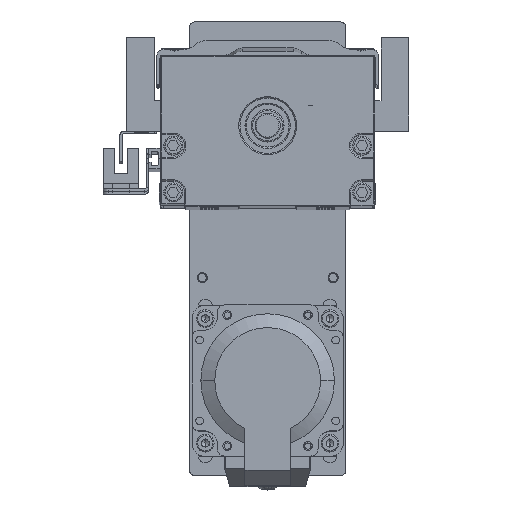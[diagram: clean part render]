
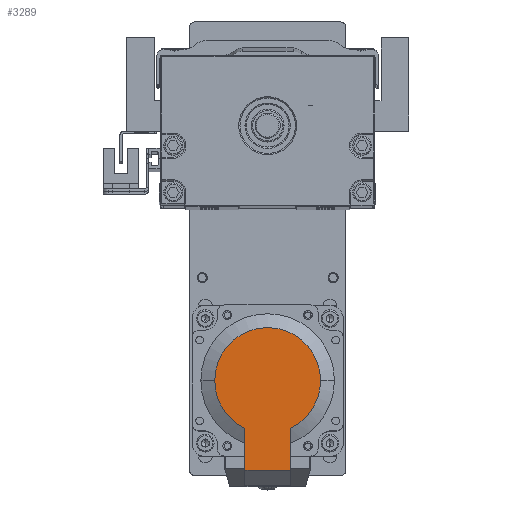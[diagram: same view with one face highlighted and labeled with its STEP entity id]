
A CAD part, top view. The second image highlights one B-rep face of the part: STEP entity #3289.
In plain terms, the highlighted planar face has unit normal (0, 0, 1).
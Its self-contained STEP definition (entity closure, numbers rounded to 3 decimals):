
#519 = CARTESIAN_POINT ( 'NONE',  ( 121.36, 3.277, 500.168 ) ) ;
#3289 = ADVANCED_FACE ( 'NONE', ( #85136 ), #66533, .T. ) ;
#4581 = VECTOR ( 'NONE', #147661, 1000. ) ;
#4731 = VERTEX_POINT ( 'NONE', #29173 ) ;
#5312 = VECTOR ( 'NONE', #47982, 1000. ) ;
#6161 = EDGE_CURVE ( 'NONE', #11733, #80339, #108798, .T. ) ;
#6538 = CARTESIAN_POINT ( 'NONE',  ( 85.777, 12.277, 500.168 ) ) ;
#9031 = CIRCLE ( 'NONE', #125349, 21. ) ;
#11733 = VERTEX_POINT ( 'NONE', #22188 ) ;
#12372 = CIRCLE ( 'NONE', #53614, 21. ) ;
#18062 = DIRECTION ( 'NONE',  ( 0., 0., 1. ) ) ;
#18896 = EDGE_CURVE ( 'NONE', #4731, #30076, #99244, .T. ) ;
#19346 = EDGE_CURVE ( 'NONE', #69452, #30076, #97355, .T. ) ;
#21251 = EDGE_CURVE ( 'NONE', #80339, #69452, #12372, .T. ) ;
#22188 = CARTESIAN_POINT ( 'NONE',  ( 85.777, 33.277, 500.168 ) ) ;
#23475 = DIRECTION ( 'NONE',  ( 0., 0., 1. ) ) ;
#27793 = EDGE_LOOP ( 'NONE', ( #119690, #79300, #127166, #105502, #122929, #79105 ) ) ;
#29173 = CARTESIAN_POINT ( 'NONE',  ( 121.36, 21.277, 500.168 ) ) ;
#30076 = VERTEX_POINT ( 'NONE', #113311 ) ;
#37528 = CARTESIAN_POINT ( 'NONE',  ( 121.36, 21.277, 500.168 ) ) ;
#47982 = DIRECTION ( 'NONE',  ( 1., 0., 0. ) ) ;
#53144 = VECTOR ( 'NONE', #81874, 1000. ) ;
#53614 = AXIS2_PLACEMENT_3D ( 'NONE', #6538, #18062, #110183 ) ;
#54003 = EDGE_CURVE ( 'NONE', #78547, #11733, #9031, .T. ) ;
#57079 = CARTESIAN_POINT ( 'NONE',  ( 85.777, 33.277, 500.168 ) ) ;
#66533 = PLANE ( 'NONE',  #91750 ) ;
#69440 = CARTESIAN_POINT ( 'NONE',  ( 121.36, 21.277, 500.168 ) ) ;
#69452 = VERTEX_POINT ( 'NONE', #112891 ) ;
#69793 = CARTESIAN_POINT ( 'NONE',  ( 85.777, 12.277, 500.168 ) ) ;
#78547 = VERTEX_POINT ( 'NONE', #113549 ) ;
#79105 = ORIENTED_EDGE ( 'NONE', *, *, #18896, .F. ) ;
#79300 = ORIENTED_EDGE ( 'NONE', *, *, #54003, .T. ) ;
#80339 = VERTEX_POINT ( 'NONE', #108289 ) ;
#81874 = DIRECTION ( 'NONE',  ( 0., -1., 0. ) ) ;
#85136 = FACE_OUTER_BOUND ( 'NONE', #27793, .T. ) ;
#85461 = CARTESIAN_POINT ( 'NONE',  ( 85.777, 12.277, 500.168 ) ) ;
#91750 = AXIS2_PLACEMENT_3D ( 'NONE', #57079, #136391, #147839 ) ;
#97355 = LINE ( 'NONE', #519, #4581 ) ;
#99244 = LINE ( 'NONE', #69440, #53144 ) ;
#105502 = ORIENTED_EDGE ( 'NONE', *, *, #21251, .T. ) ;
#107002 = EDGE_CURVE ( 'NONE', #78547, #4731, #128473, .T. ) ;
#107411 = DIRECTION ( 'NONE',  ( 0., 1., 0. ) ) ;
#108289 = CARTESIAN_POINT ( 'NONE',  ( 85.777, -8.723, 500.168 ) ) ;
#108798 = CIRCLE ( 'NONE', #128622, 21. ) ;
#110183 = DIRECTION ( 'NONE',  ( 0., 1., 0. ) ) ;
#112891 = CARTESIAN_POINT ( 'NONE',  ( 104.751, 3.277, 500.168 ) ) ;
#113311 = CARTESIAN_POINT ( 'NONE',  ( 121.36, 3.277, 500.168 ) ) ;
#113549 = CARTESIAN_POINT ( 'NONE',  ( 104.751, 21.277, 500.168 ) ) ;
#118480 = DIRECTION ( 'NONE',  ( 0., 0., 1. ) ) ;
#119690 = ORIENTED_EDGE ( 'NONE', *, *, #107002, .F. ) ;
#122929 = ORIENTED_EDGE ( 'NONE', *, *, #19346, .T. ) ;
#125349 = AXIS2_PLACEMENT_3D ( 'NONE', #69793, #23475, #138232 ) ;
#127166 = ORIENTED_EDGE ( 'NONE', *, *, #6161, .T. ) ;
#128473 = LINE ( 'NONE', #37528, #5312 ) ;
#128622 = AXIS2_PLACEMENT_3D ( 'NONE', #85461, #118480, #107411 ) ;
#136391 = DIRECTION ( 'NONE',  ( 0., 0., 1. ) ) ;
#138232 = DIRECTION ( 'NONE',  ( 0., 1., 0. ) ) ;
#147661 = DIRECTION ( 'NONE',  ( 1., 0., 0. ) ) ;
#147839 = DIRECTION ( 'NONE',  ( 0., 1., 0. ) ) ;
